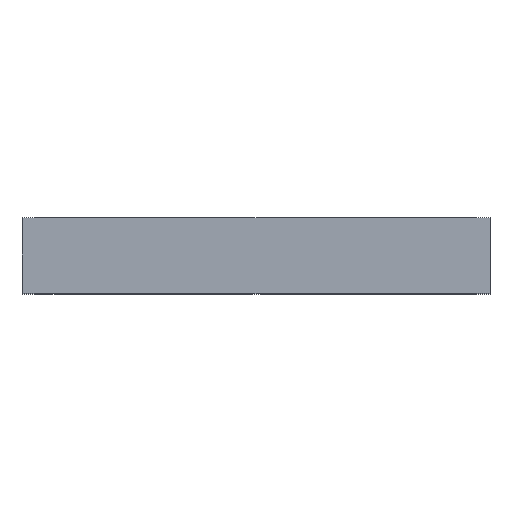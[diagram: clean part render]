
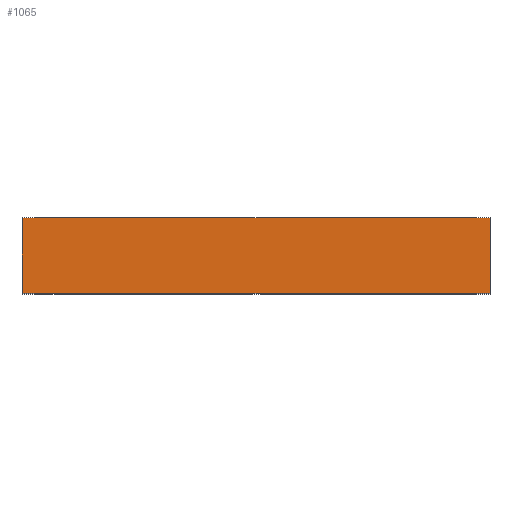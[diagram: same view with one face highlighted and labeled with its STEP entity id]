
A CAD part, top view. The second image highlights one B-rep face of the part: STEP entity #1065.
In plain terms, the highlighted planar face has unit normal (0, 0, 1).
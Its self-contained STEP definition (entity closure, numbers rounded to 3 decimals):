
#51 = ORIENTED_EDGE ( 'NONE', *, *, #1113, .T. ) ;
#89 = ORIENTED_EDGE ( 'NONE', *, *, #1119, .F. ) ;
#154 = EDGE_LOOP ( 'NONE', ( #51, #89, #158, #171 ) ) ;
#158 = ORIENTED_EDGE ( 'NONE', *, *, #1104, .F. ) ;
#171 = ORIENTED_EDGE ( 'NONE', *, *, #1118, .T. ) ;
#407 = FACE_OUTER_BOUND ( 'NONE', #154, .T. ) ;
#433 = LINE ( 'NONE', #926, #460 ) ;
#442 = LINE ( 'NONE', #924, #443 ) ;
#443 = VECTOR ( 'NONE', #925, 1000. ) ;
#460 = VECTOR ( 'NONE', #943, 1000. ) ;
#461 = LINE ( 'NONE', #946, #469 ) ;
#469 = VECTOR ( 'NONE', #954, 1000. ) ;
#470 = LINE ( 'NONE', #955, #471 ) ;
#471 = VECTOR ( 'NONE', #956, 1000. ) ;
#497 = CARTESIAN_POINT ( 'NONE',  ( 201., 0., 239.5 ) ) ;
#505 = VERTEX_POINT ( 'NONE', #497 ) ;
#547 = VERTEX_POINT ( 'NONE', #603 ) ;
#550 = VERTEX_POINT ( 'NONE', #602 ) ;
#555 = VERTEX_POINT ( 'NONE', #610 ) ;
#602 = CARTESIAN_POINT ( 'NONE',  ( -201., 0., 239.5 ) ) ;
#603 = CARTESIAN_POINT ( 'NONE',  ( 201., 65., 239.5 ) ) ;
#610 = CARTESIAN_POINT ( 'NONE',  ( -201., 65., 239.5 ) ) ;
#785 = PLANE ( 'NONE',  #1139 ) ;
#788 = CARTESIAN_POINT ( 'NONE',  ( -201., 65., 239.5 ) ) ;
#794 = DIRECTION ( 'NONE',  ( 0., 0., -1. ) ) ;
#795 = DIRECTION ( 'NONE',  ( -1., 0., 0. ) ) ;
#924 = CARTESIAN_POINT ( 'NONE',  ( -201., 65., 239.5 ) ) ;
#925 = DIRECTION ( 'NONE',  ( 1., 0., 0. ) ) ;
#926 = CARTESIAN_POINT ( 'NONE',  ( -201., 0., 239.5 ) ) ;
#943 = DIRECTION ( 'NONE',  ( 1., 0., 0. ) ) ;
#946 = CARTESIAN_POINT ( 'NONE',  ( -201., 65., 239.5 ) ) ;
#954 = DIRECTION ( 'NONE',  ( 0., -1., 0. ) ) ;
#955 = CARTESIAN_POINT ( 'NONE',  ( 201., 65., 239.5 ) ) ;
#956 = DIRECTION ( 'NONE',  ( 0., -1., 0. ) ) ;
#1065 = ADVANCED_FACE ( 'NONE', ( #407 ), #785, .F. ) ;
#1104 = EDGE_CURVE ( 'NONE', #555, #547, #442, .T. ) ;
#1113 = EDGE_CURVE ( 'NONE', #550, #505, #433, .T. ) ;
#1118 = EDGE_CURVE ( 'NONE', #555, #550, #461, .T. ) ;
#1119 = EDGE_CURVE ( 'NONE', #547, #505, #470, .T. ) ;
#1139 = AXIS2_PLACEMENT_3D ( 'NONE', #788, #794, #795 ) ;
